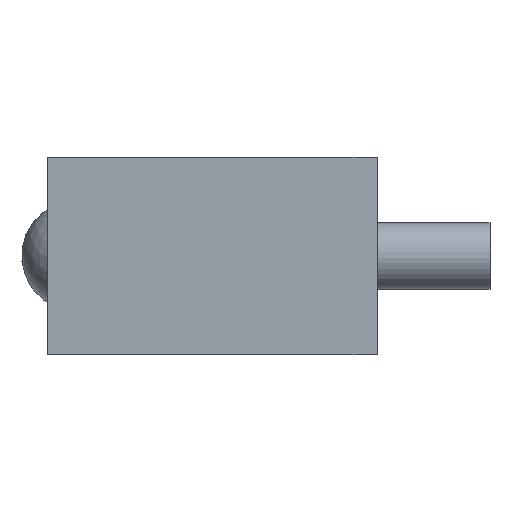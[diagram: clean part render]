
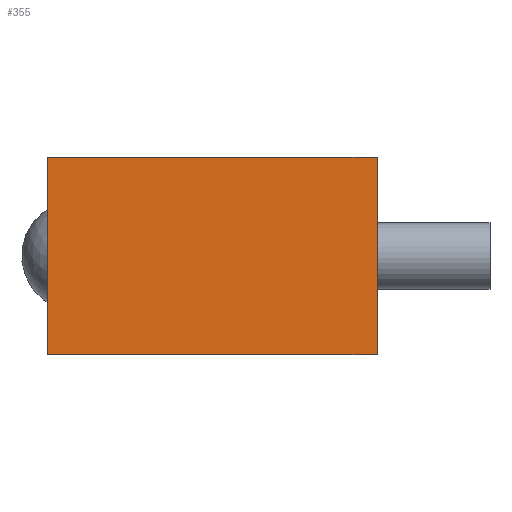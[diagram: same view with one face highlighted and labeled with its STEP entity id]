
A CAD part, left-side view. The second image highlights one B-rep face of the part: STEP entity #355.
In plain terms, the highlighted planar face has unit normal (-1, 0, 0).
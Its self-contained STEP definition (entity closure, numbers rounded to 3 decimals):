
#21=LINE('',#583,#37);
#27=LINE('',#598,#43);
#31=LINE('',#610,#47);
#33=LINE('',#613,#49);
#37=VECTOR('',#492,10.);
#43=VECTOR('',#502,10.);
#47=VECTOR('',#518,10.);
#49=VECTOR('',#522,10.);
#76=PLANE('',#419);
#100=FACE_OUTER_BOUND('',#138,.T.);
#138=EDGE_LOOP('',(#285,#286,#287,#288));
#178=VERTEX_POINT('',#581);
#179=VERTEX_POINT('',#582);
#185=VERTEX_POINT('',#595);
#186=VERTEX_POINT('',#597);
#208=EDGE_CURVE('',#178,#179,#21,.T.);
#215=EDGE_CURVE('',#185,#186,#27,.T.);
#221=EDGE_CURVE('',#186,#178,#31,.T.);
#223=EDGE_CURVE('',#179,#185,#33,.T.);
#285=ORIENTED_EDGE('',*,*,#215,.F.);
#286=ORIENTED_EDGE('',*,*,#223,.F.);
#287=ORIENTED_EDGE('',*,*,#208,.F.);
#288=ORIENTED_EDGE('',*,*,#221,.F.);
#355=ADVANCED_FACE('',(#100),#76,.T.);
#419=AXIS2_PLACEMENT_3D('',#612,#520,#521);
#492=DIRECTION('',(0.,0.,1.));
#502=DIRECTION('',(0.,0.,-1.));
#518=DIRECTION('',(0.,1.,0.));
#520=DIRECTION('center_axis',(-1.,0.,0.));
#521=DIRECTION('ref_axis',(0.,-1.,0.));
#522=DIRECTION('',(0.,-1.,0.));
#581=CARTESIAN_POINT('',(-110.,14.9,-8.9));
#582=CARTESIAN_POINT('',(-110.,14.9,8.9));
#583=CARTESIAN_POINT('',(-110.,14.9,0.));
#595=CARTESIAN_POINT('',(-110.,-14.9,8.9));
#597=CARTESIAN_POINT('',(-110.,-14.9,-8.9));
#598=CARTESIAN_POINT('',(-110.,-14.9,0.));
#610=CARTESIAN_POINT('',(-110.,14.9,-8.9));
#612=CARTESIAN_POINT('Origin',(-110.,14.9,0.));
#613=CARTESIAN_POINT('',(-110.,14.9,8.9));
